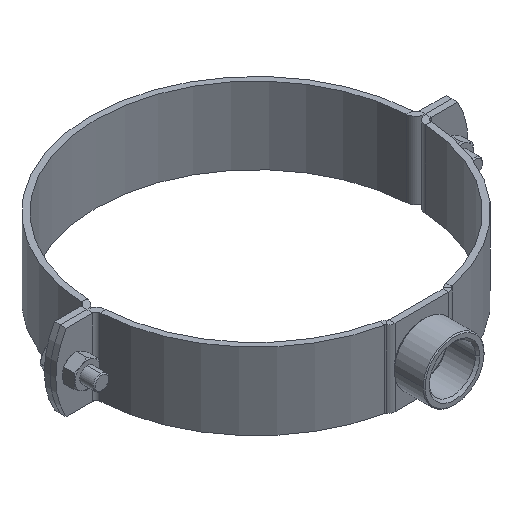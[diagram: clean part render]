
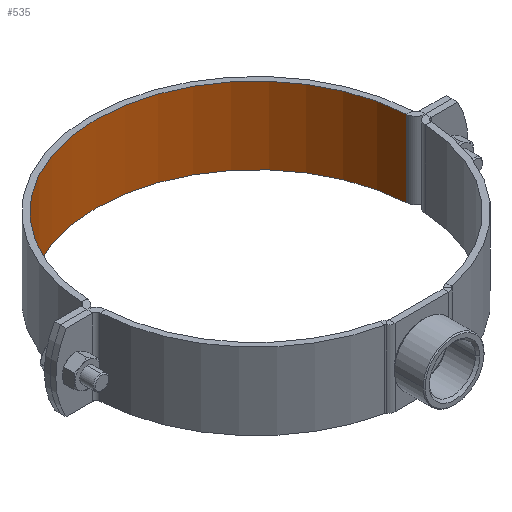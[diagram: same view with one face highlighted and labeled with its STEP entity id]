
A CAD part, isometric view. The second image highlights one B-rep face of the part: STEP entity #535.
In plain terms, the highlighted cylindrical face has radius 83.5 mm (diameter 167 mm), a partial arc.
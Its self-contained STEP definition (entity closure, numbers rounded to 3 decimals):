
#136 = EDGE_CURVE ( 'NONE', #4197, #1300, #883, .T. ) ;
#166 = CARTESIAN_POINT ( 'NONE',  ( 83.367, -4.718, -20. ) ) ;
#313 = ORIENTED_EDGE ( 'NONE', *, *, #136, .F. ) ;
#395 = DIRECTION ( 'NONE',  ( 0., 0., -1. ) ) ;
#448 = DIRECTION ( 'NONE',  ( 0., 0., 1. ) ) ;
#515 = DIRECTION ( 'NONE',  ( 0., 0., -1. ) ) ;
#535 = ADVANCED_FACE ( 'NONE', ( #901 ), #2444, .F. ) ;
#861 = AXIS2_PLACEMENT_3D ( 'NONE', #3985, #515, #2063 ) ;
#883 = LINE ( 'NONE', #2426, #3889 ) ;
#901 = FACE_OUTER_BOUND ( 'NONE', #4503, .T. ) ;
#1088 = CARTESIAN_POINT ( 'NONE',  ( 83.367, -4.718, 20. ) ) ;
#1284 = ORIENTED_EDGE ( 'NONE', *, *, #2414, .T. ) ;
#1300 = VERTEX_POINT ( 'NONE', #3969 ) ;
#1366 = DIRECTION ( 'NONE',  ( 0., 0., 1. ) ) ;
#1688 = EDGE_CURVE ( 'NONE', #4926, #4140, #2330, .T. ) ;
#1756 = EDGE_CURVE ( 'NONE', #1300, #4140, #2141, .T. ) ;
#1998 = DIRECTION ( 'NONE',  ( 1., 0., 0. ) ) ;
#2063 = DIRECTION ( 'NONE',  ( -1., 0., 0. ) ) ;
#2141 = CIRCLE ( 'NONE', #2146, 83.5 ) ;
#2146 = AXIS2_PLACEMENT_3D ( 'NONE', #3913, #448, #1998 ) ;
#2330 = LINE ( 'NONE', #3870, #3933 ) ;
#2414 = EDGE_CURVE ( 'NONE', #4197, #4926, #3114, .T. ) ;
#2426 = CARTESIAN_POINT ( 'NONE',  ( -83.367, -4.718, 20. ) ) ;
#2444 = CYLINDRICAL_SURFACE ( 'NONE', #861, 83.5 ) ;
#2837 = ORIENTED_EDGE ( 'NONE', *, *, #1756, .F. ) ;
#2916 = DIRECTION ( 'NONE',  ( 1., 0., 0. ) ) ;
#3061 = ORIENTED_EDGE ( 'NONE', *, *, #1688, .T. ) ;
#3114 = CIRCLE ( 'NONE', #3118, 83.5 ) ;
#3118 = AXIS2_PLACEMENT_3D ( 'NONE', #4835, #1366, #2916 ) ;
#3870 = CARTESIAN_POINT ( 'NONE',  ( 83.367, -4.718, 20. ) ) ;
#3889 = VECTOR ( 'NONE', #3968, 1000. ) ;
#3913 = CARTESIAN_POINT ( 'NONE',  ( 0., 0., -20. ) ) ;
#3933 = VECTOR ( 'NONE', #395, 1000. ) ;
#3968 = DIRECTION ( 'NONE',  ( 0., 0., -1. ) ) ;
#3969 = CARTESIAN_POINT ( 'NONE',  ( -83.367, -4.718, -20. ) ) ;
#3985 = CARTESIAN_POINT ( 'NONE',  ( 0., 0., 20. ) ) ;
#4140 = VERTEX_POINT ( 'NONE', #166 ) ;
#4197 = VERTEX_POINT ( 'NONE', #4467 ) ;
#4467 = CARTESIAN_POINT ( 'NONE',  ( -83.367, -4.718, 20. ) ) ;
#4503 = EDGE_LOOP ( 'NONE', ( #2837, #313, #1284, #3061 ) ) ;
#4835 = CARTESIAN_POINT ( 'NONE',  ( 0., 0., 20. ) ) ;
#4926 = VERTEX_POINT ( 'NONE', #1088 ) ;
